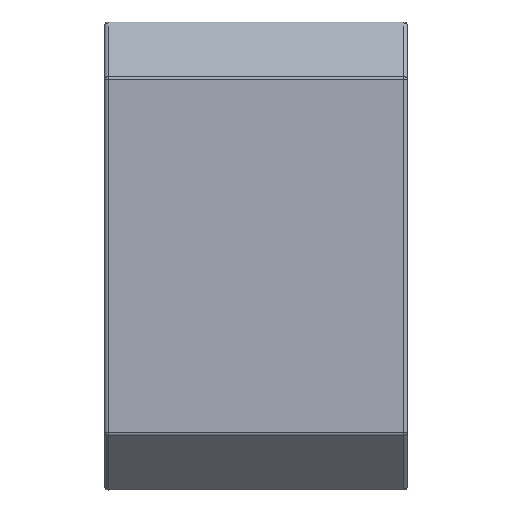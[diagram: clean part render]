
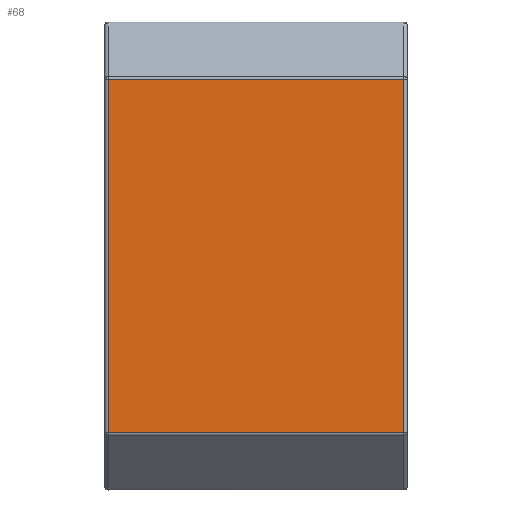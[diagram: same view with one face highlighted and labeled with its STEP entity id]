
A CAD part, top view. The second image highlights one B-rep face of the part: STEP entity #68.
In plain terms, the highlighted planar face has unit normal (0, 0, 1).
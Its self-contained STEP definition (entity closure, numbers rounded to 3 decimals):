
#13 = VECTOR ( 'NONE', #1266, 1000. ) ;
#58 = CARTESIAN_POINT ( 'NONE',  ( 42.5, -25., 6.5 ) ) ;
#68 = ADVANCED_FACE ( 'NONE', ( #1030 ), #141, .T. ) ;
#141 = PLANE ( 'NONE',  #287 ) ;
#188 = CARTESIAN_POINT ( 'NONE',  ( 42., 25., 6.5 ) ) ;
#193 = EDGE_CURVE ( 'NONE', #383, #1027, #997, .T. ) ;
#234 = DIRECTION ( 'NONE',  ( 1., 0., 0. ) ) ;
#251 = DIRECTION ( 'NONE',  ( 0., -1., 0. ) ) ;
#282 = EDGE_CURVE ( 'NONE', #1027, #441, #1251, .T. ) ;
#287 = AXIS2_PLACEMENT_3D ( 'NONE', #58, #1223, #251 ) ;
#297 = CARTESIAN_POINT ( 'NONE',  ( 0.5, -24.793, 6.5 ) ) ;
#306 = ORIENTED_EDGE ( 'NONE', *, *, #1309, .T. ) ;
#330 = CARTESIAN_POINT ( 'NONE',  ( 42.5, -24.793, 6.5 ) ) ;
#383 = VERTEX_POINT ( 'NONE', #297 ) ;
#410 = VERTEX_POINT ( 'NONE', #983 ) ;
#441 = VERTEX_POINT ( 'NONE', #1205 ) ;
#469 = CARTESIAN_POINT ( 'NONE',  ( 0.5, -25., 6.5 ) ) ;
#474 = LINE ( 'NONE', #469, #13 ) ;
#518 = EDGE_CURVE ( 'NONE', #410, #383, #474, .T. ) ;
#531 = EDGE_LOOP ( 'NONE', ( #1283, #306, #1063, #779 ) ) ;
#590 = CARTESIAN_POINT ( 'NONE',  ( 42.5, 24.793, 6.5 ) ) ;
#609 = LINE ( 'NONE', #590, #831 ) ;
#618 = DIRECTION ( 'NONE',  ( 0., 1., 0. ) ) ;
#779 = ORIENTED_EDGE ( 'NONE', *, *, #193, .T. ) ;
#831 = VECTOR ( 'NONE', #1140, 1000. ) ;
#983 = CARTESIAN_POINT ( 'NONE',  ( 0.5, 24.793, 6.5 ) ) ;
#997 = LINE ( 'NONE', #330, #1411 ) ;
#1027 = VERTEX_POINT ( 'NONE', #1274 ) ;
#1030 = FACE_OUTER_BOUND ( 'NONE', #531, .T. ) ;
#1063 = ORIENTED_EDGE ( 'NONE', *, *, #518, .T. ) ;
#1140 = DIRECTION ( 'NONE',  ( -1., 0., 0. ) ) ;
#1205 = CARTESIAN_POINT ( 'NONE',  ( 42., 24.793, 6.5 ) ) ;
#1223 = DIRECTION ( 'NONE',  ( 0., 0., 1. ) ) ;
#1251 = LINE ( 'NONE', #188, #1339 ) ;
#1266 = DIRECTION ( 'NONE',  ( 0., -1., 0. ) ) ;
#1274 = CARTESIAN_POINT ( 'NONE',  ( 42., -24.793, 6.5 ) ) ;
#1283 = ORIENTED_EDGE ( 'NONE', *, *, #282, .T. ) ;
#1309 = EDGE_CURVE ( 'NONE', #441, #410, #609, .T. ) ;
#1339 = VECTOR ( 'NONE', #618, 1000. ) ;
#1411 = VECTOR ( 'NONE', #234, 1000. ) ;
